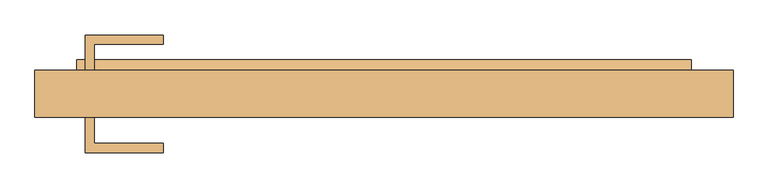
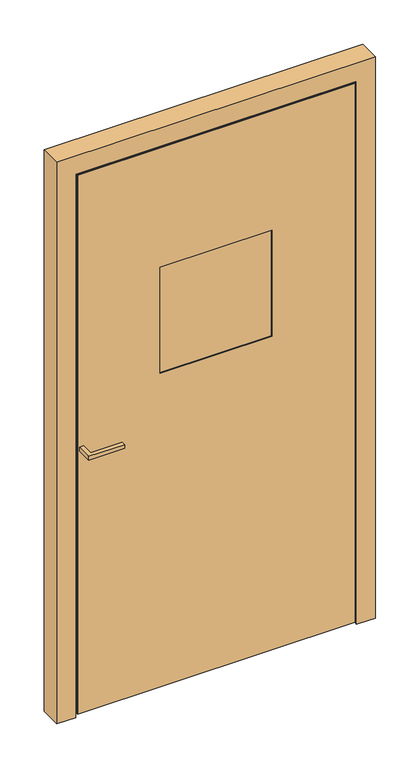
"""IFC4 building model written with IfcOpenShell, lengths in millimetres: door geometry, Reynaers_Masterline 8_Door_Panel_Outward Opening_Single Vent_Spy Window : Reynaers_Masterline 8_Door_Panel_Outward Opening_Single Vent_Spy Window."""

from ifc_helpers import new_model, si_unit, point, frame, frame_2d, origin, place, context, project, spatial, polyline, circle_curve, trimmed, segment, composite_curve, outline, extrude, faceted_brep, source, transform, mapped, element, save


def door_1a9287ff(model_context):
    return source(origin(), model_context, "Body", "SolidModel", [
        extrude(outline(polyline([(-488.0, 80.0), (-488.0, 137.5), (-360.5, 137.5), (-360.5, 122.5), (-473.0, 122.5), (-473.0, 80.0), (-488.0, 80.0)])), frame((0.0, 0.0, 1001.0), z_axis=(0.0, 0.0, 1.0), x_axis=(1.0, 0.0, 0.0)), (0.0, 0.0, 1.0), 15.0),
        extrude(outline(polyline([(-488.0, 3.0), (-473.0, 3.0), (-473.0, -39.5), (-360.5, -39.5), (-360.5, -54.5), (-488.0, -54.5), (-488.0, 3.0)])), frame((0.0, 0.0, 1001.0), z_axis=(0.0, 0.0, 1.0), x_axis=(1.0, 0.0, 0.0)), (0.0, 0.0, 1.0), 15.0),
        extrude(outline(polyline([(439.0, 6.0), (-439.0, 6.0), (-439.0, 77.0), (439.0, 77.0), (439.0, 6.0)])), frame((0.0, 0.0, 93.0), z_axis=(0.0, 0.0, 1.0), x_axis=(1.0, 0.0, 0.0)), (0.0, 0.0, 1.0), 1030.9478141),
        extrude(outline(polyline([(1989.0, 439.0), (1989.0, -439.0), (1169.0, -439.0), (1169.0, -225.0), (1619.0, -225.0), (1619.0, 225.0), (1169.0, 225.0), (1169.0, 439.0), (1989.0, 439.0)])), frame((0.0, 6.0, 0.0), z_axis=(0.0, 1.0, 0.0), x_axis=(0.0, 0.0, 1.0)), (0.0, 0.0, 1.0), 71.0),
        extrude(outline(polyline([(2045.5, 495.5), (2045.5, -495.5), (10.5, -495.5), (10.5, 495.5), (2045.5, 495.5)]), holes=[polyline([(1194.0, 200.0), (1194.0, -200.0), (1594.0, -200.0), (1594.0, 200.0), (1194.0, 200.0)])]), frame((0.0, 3.0, 0.0), z_axis=(0.0, 1.0, 0.0), x_axis=(0.0, 0.0, 1.0)), (0.0, 0.0, 1.0), 3.0),
        extrude(outline(polyline([(2071.5, 516.5), (2071.5, -516.5), (36.5, -516.5), (36.5, 516.5), (2071.5, 516.5)]), holes=[polyline([(1194.0, 200.0), (1194.0, -200.0), (1594.0, -200.0), (1594.0, 200.0), (1194.0, 200.0)])]), frame((0.0, 77.0, 0.0), z_axis=(0.0, 1.0, 0.0), x_axis=(0.0, 0.0, 1.0)), (0.0, 0.0, 1.0), 3.0),
        extrude(outline(polyline([(-501.5, 47.5824088), (-501.5, 67.2145331), (501.5, 67.2145331), (501.5, 47.5824088), (-501.5, 47.5824088)])), frame((0.0, 0.0, 1.0), z_axis=(0.0, 0.0, 1.0), x_axis=(1.0, 0.0, 0.0)), (0.0, 0.0, 1.0), 24.5),
        extrude(outline(polyline([(-501.5, 74.8), (-501.5, 80.0), (501.5, 80.0), (501.5, 74.8), (-501.5, 74.8)])), frame((0.0, 0.0, 10.5), z_axis=(0.0, 0.0, 1.0), x_axis=(1.0, 0.0, 0.0)), (0.0, 0.0, 1.0), 26.0029552),
        extrude(outline(polyline([(76.6, 1169.0), (76.6, 1128.9998076), (74.6, 1128.9998076), (74.6, 1134.0043308), (33.5952776, 1134.0043308), (33.5952776, 1129.0), (6.4, 1129.0), (6.4, 1169.0), (33.6019389, 1169.0), (33.6019389, 1163.9954768), (74.6, 1163.9954768), (74.6, 1169.0), (76.6, 1169.0)])), frame((-444.0, 0.0, 0.0), z_axis=(1.0, 0.0, 0.0), x_axis=(0.0, 1.0, 0.0)), (0.0, 0.0, 1.0), 888.0),
        faceted_brep([(-501.5, 6.7998164, 0.0), (-501.5, 3.0, 0.0), (-570.0, 3.0, 0.0), (-570.0, 80.0, 0.0), (-527.5, 80.0, 0.0), (-527.5, 71.2, 0.0), (-516.5, 71.2, 0.0), (-516.5, 6.7998164, 0.0), (501.5, 6.7998164, 0.0), (516.5, 6.7998164, 0.0), (516.5, 71.2, 0.0), (527.5, 71.2, 0.0), (527.5, 80.0, 0.0), (570.0, 80.0, 0.0), (570.0, 3.0, 0.0), (501.5, 3.0, 0.0), (-501.5, 6.7998164, 2051.5), (-501.5, 3.0, 2051.5), (501.5, 3.0, 2051.5), (570.0, 3.0, 2120.0), (-570.0, 3.0, 2120.0), (-570.0, 80.0, 2120.0), (570.0, 80.0, 2120.0), (527.5, 80.0, 2077.5), (-527.5, 80.0, 2077.5), (-527.5, 71.2, 2077.5), (527.5, 71.2, 2077.5), (516.5, 71.2, 2066.5), (-516.5, 71.2, 2066.5), (-516.5, 6.7998164, 2066.5), (516.5, 6.7998164, 2066.5), (501.5, 6.7998164, 2051.5)], [[[0, 1, 2, 3, 4, 5, 6, 7]], [[8, 9, 10, 11, 12, 13, 14, 15]], [[1, 0, 16, 17]], [[2, 1, 17, 18, 15, 14, 19, 20]], [[3, 2, 20, 21]], [[4, 3, 21, 22, 13, 12, 23, 24]], [[5, 4, 24, 25]], [[6, 5, 25, 26, 11, 10, 27, 28]], [[7, 6, 28, 29]], [[0, 7, 29, 30, 9, 8, 31, 16]], [[17, 16, 31, 18]], [[20, 19, 22, 21]], [[24, 23, 26, 25]], [[28, 27, 30, 29]], [[8, 15, 18, 31]], [[14, 13, 22, 19]], [[12, 11, 26, 23]], [[10, 9, 30, 27]]]),
        faceted_brep([(-444.0, 6.0, 1994.0), (-444.0, 77.0, 1994.0), (444.0, 77.0, 1994.0), (444.0, 6.0, 1994.0), (-495.5, 11.8, 2045.5), (-495.5, 6.0, 2045.5), (495.5, 6.0, 2045.5), (495.5, 11.8, 2045.5), (444.0, 77.0, 88.0), (444.0, 6.0, 88.0), (495.5, 6.0, 36.5), (495.5, 11.8, 36.5), (-444.0, 77.0, 88.0), (-444.0, 6.0, 88.0), (-495.5, 6.0, 36.5), (-495.5, 11.8, 36.5), (-506.5, 11.8, 2056.5), (-506.5, 11.8, 25.5), (506.5, 11.8, 25.5), (506.5, 11.8, 2056.5), (506.5, 71.2001837, 2056.5), (-506.5, 71.2001837, 2056.5), (-495.5, 77.0, 2045.5), (-495.5, 71.2001837, 2045.5), (495.5, 71.2001837, 2045.5), (495.5, 77.0, 2045.5), (506.5, 71.2001837, 25.5), (495.5, 71.2001837, 36.5), (495.5, 77.0, 36.5), (-506.5, 71.2001837, 25.5), (-495.5, 71.2001837, 36.5), (-495.5, 77.0, 36.5)], [[[0, 1, 2, 3]], [[4, 5, 6, 7]], [[3, 2, 8, 9]], [[7, 6, 10, 11]], [[9, 8, 12, 13]], [[11, 10, 14, 15]], [[1, 0, 13, 12]], [[6, 5, 14, 10], [0, 3, 9, 13]], [[5, 4, 15, 14]], [[16, 17, 18, 19], [4, 7, 11, 15]], [[16, 19, 20, 21]], [[22, 23, 24, 25]], [[19, 18, 26, 20]], [[25, 24, 27, 28]], [[18, 17, 29, 26]], [[28, 27, 30, 31]], [[17, 16, 21, 29]], [[21, 20, 26, 29], [24, 23, 30, 27]], [[23, 22, 31, 30]], [[22, 25, 28, 31], [2, 1, 12, 8]]]),
        extrude(outline(composite_curve([segment(polyline([(80.0, 36.9033864), (80.0, 38.6908804), (97.0, 32.5033864), (97.0, 23.9033864), (70.0709002, 23.9033864)]), True, "CONTINUOUS"), segment(trimmed(circle_curve(frame_2d((69.6934432, 20.5372125)), 3.3872704), [point((70.0709002, 23.9033864))], [point((68.8243396, 17.2633371))], False, "CARTESIAN"), True, "CONTINUOUS"), segment(trimmed(circle_curve(frame_2d((71.3621384, 25.708315)), 8.8180539), [point((68.8243396, 17.2633371))], [point((64.0318662, 20.8067659))], False, "CARTESIAN"), True, "CONTINUOUS"), segment(trimmed(circle_curve(frame_2d((55.7237753, 13.6475995)), 10.9671344), [point((64.0318662, 20.8067659))], [point((60.6220903, 23.4600685))], True, "CARTESIAN"), True, "CONTINUOUS"), segment(polyline([(60.6220903, 23.4600685), (60.6220903, 24.5033864), (71.2, 24.5033864), (71.2, 34.5454335), (80.0, 36.9033864)]), True, "CONTINUOUS")], self_intersect=False)), frame((-501.5, 0.0, 0.0), z_axis=(1.0, 0.0, 0.0), x_axis=(0.0, 1.0, 0.0)), (0.0, 0.0, 1.0), 1003.0),
        extrude(outline(polyline([(220.0, 73.0), (220.0, 10.0), (-220.0, 10.0), (-220.0, 73.0), (220.0, 73.0)])), frame((0.0, 0.0, 1174.0), z_axis=(0.0, 0.0, 1.0), x_axis=(1.0, 0.0, 0.0)), (0.0, 0.0, 1.0), 440.0),
    ])


if __name__ == "__main__":
    model = new_model("IFC4")
    model_context = context("Model", 3, world=origin())
    ifc_project = project(units=[si_unit("LENGTHUNIT", "METRE", prefix="MILLI")], contexts=[model_context])
    site = spatial("IfcSite", under=ifc_project)
    building = spatial("IfcBuilding", under=site)
    placement = place(None, origin())
    door_shape = door_1a9287ff(model_context)
    element("IfcDoor", 1, ObjectType="Reynaers_Masterline 8_Door_Panel_Outward Opening_Single Vent_Spy Window : Reynaers_Masterline 8_Door_Panel_Outward Opening_Single Vent_Spy Window", at=placement, inside=building, context=model_context, shape_type="MappedRepresentation", body=[
        mapped(door_shape, transform((0.0, 0.0, 0.0), x_axis=(1.0, 0.0, 0.0), y_axis=(0.0, 1.0, 0.0), z_axis=(0.0, 0.0, 1.0))),
    ])
    save(model, "model.ifc")
